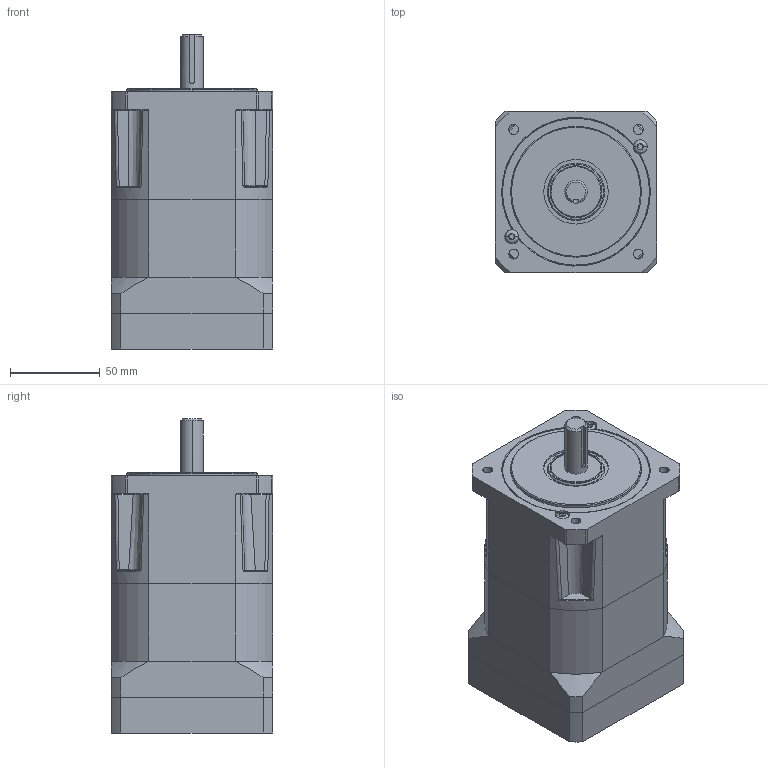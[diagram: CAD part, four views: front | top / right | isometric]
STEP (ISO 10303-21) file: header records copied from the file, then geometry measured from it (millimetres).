
FILE_DESCRIPTION((''),'2;1');
FILE_NAME('PX34-020-000-X2_SW0001','2008-11-20T',('aza7363'),(''),'PRO/ENGINEER BY PARAMETRIC TECHNOLOGY CORPORATION, 2006300','PRO/ENGINEER BY PARAMETRIC TECHNOLOGY CORPORATION, 2006300','');
FILE_SCHEMA(('CONFIG_CONTROL_DESIGN'));
Length unit declared in the file: millimetre
Products named in the file (1): PX34-020-000-X2_SW0001
Bounding box: 90 x 90 x 175.25 mm (x, y, z)
Surface area: 93635.5 mm2 (no closed solid volume)
Topology: 0 solids, 25 shells, 348 faces, 969 edges, 649 vertices
Faces by surface type: plane 146, cylinder 129, bspline 39, cone 20, torus 14
Entity records: 13108 total; most frequent: CARTESIAN_POINT 4296, DIRECTION 1833, ORIENTED_EDGE 1715, EDGE_CURVE 969, AXIS2_PLACEMENT_3D 687, VERTEX_POINT 649, VECTOR 459, LINE 459
